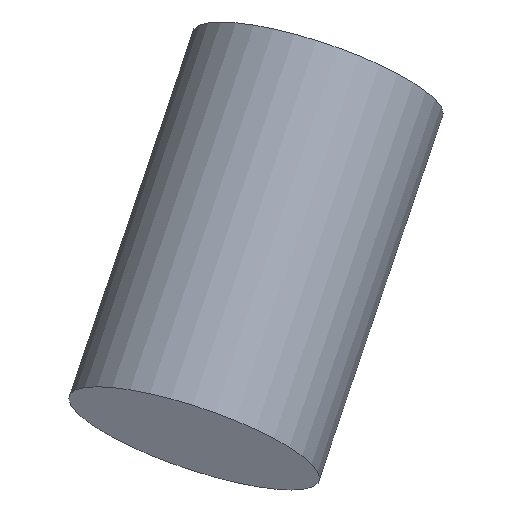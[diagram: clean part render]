
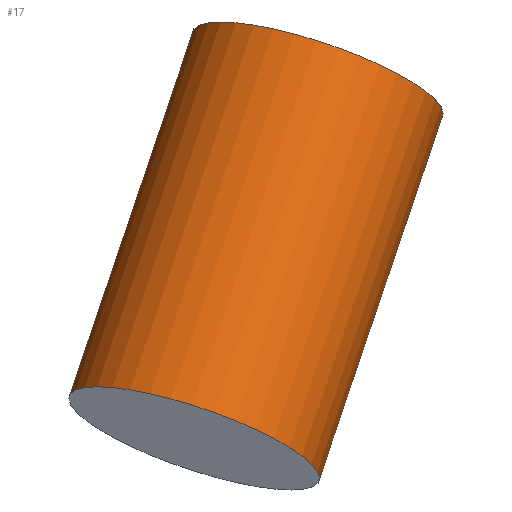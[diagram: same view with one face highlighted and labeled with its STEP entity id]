
A CAD part, left-side view. The second image highlights one B-rep face of the part: STEP entity #17.
In plain terms, the highlighted cylindrical face has radius 10 mm (diameter 20 mm), a full revolution.
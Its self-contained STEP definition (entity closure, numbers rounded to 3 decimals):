
#17 = ADVANCED_FACE('',(#18),#45,.T.);
#18 = FACE_BOUND('',#19,.F.);
#19 = EDGE_LOOP('',(#20,#30,#37,#38));
#20 = ORIENTED_EDGE('',*,*,#21,.T.);
#21 = EDGE_CURVE('',#22,#24,#26,.T.);
#22 = VERTEX_POINT('',#23);
#23 = CARTESIAN_POINT('',(130.986,-34.982,78.));
#24 = VERTEX_POINT('',#25);
#25 = CARTESIAN_POINT('',(138.041,-44.343,
    105.615));
#26 = LINE('',#27,#28);
#27 = CARTESIAN_POINT('',(130.986,-34.982,78.));
#28 = VECTOR('',#29,1.);
#29 = DIRECTION('',(0.235,-0.312,0.921));
#30 = ORIENTED_EDGE('',*,*,#31,.T.);
#31 = EDGE_CURVE('',#24,#24,#32,.T.);
#32 = CIRCLE('',#33,10.);
#33 = AXIS2_PLACEMENT_3D('',#34,#35,#36);
#34 = CARTESIAN_POINT('',(130.054,-50.362,
    105.615));
#35 = DIRECTION('',(0.235,-0.312,0.921));
#36 = DIRECTION('',(0.799,0.602,0.));
#37 = ORIENTED_EDGE('',*,*,#21,.F.);
#38 = ORIENTED_EDGE('',*,*,#39,.F.);
#39 = EDGE_CURVE('',#22,#22,#40,.T.);
#40 = CIRCLE('',#41,10.);
#41 = AXIS2_PLACEMENT_3D('',#42,#43,#44);
#42 = CARTESIAN_POINT('',(123.,-41.,78.));
#43 = DIRECTION('',(0.235,-0.312,0.921));
#44 = DIRECTION('',(0.799,0.602,0.));
#45 = CYLINDRICAL_SURFACE('',#46,10.);
#46 = AXIS2_PLACEMENT_3D('',#47,#48,#49);
#47 = CARTESIAN_POINT('',(123.,-41.,78.));
#48 = DIRECTION('',(-0.235,0.312,-0.921));
#49 = DIRECTION('',(0.799,0.602,0.));
